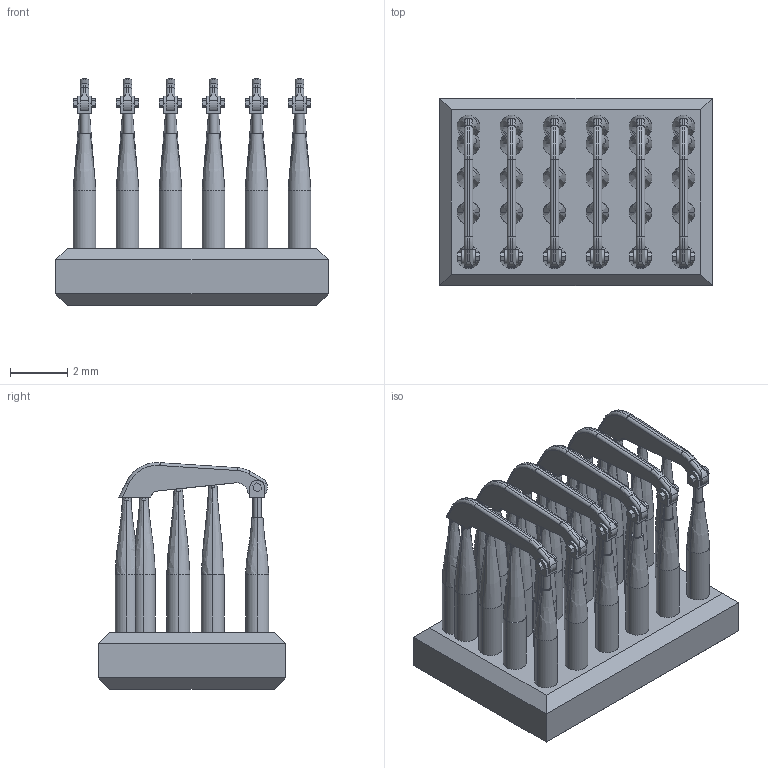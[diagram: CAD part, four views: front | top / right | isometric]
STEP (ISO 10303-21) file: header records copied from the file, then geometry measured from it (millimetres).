
FILE_DESCRIPTION(/* description */ (''),/* implementation_level */ '2;1');
FILE_NAME(/* name */ 'F6F-XA~1',/* time_stamp */ '2021-03-18T10:31:24+01:00',/* author */ (''),/* organization */ (''),/* preprocessor_version */ 'ST-DEVELOPER v16.5',/* originating_system */ '',/* authorisation */ '');
FILE_SCHEMA (('CONFIG_CONTROL_DESIGN'));
Length unit declared in the file: millimetre
Products named in the file (1): Document
Bounding box: 9.5 x 6.55 x 7.91 mm (x, y, z)
Volume: 176.9 mm3; surface area: 504.8 mm2
Topology: 1 solids, 1 shells, 536 faces, 1396 edges, 892 vertices
Faces by surface type: plane 284, bspline 138, cylinder 114
Entity records: 20232 total; most frequent: CARTESIAN_POINT 11684, ORIENTED_EDGE 2792, EDGE_CURVE 1396, VERTEX_POINT 892, EDGE_LOOP 614, B_SPLINE_CURVE_WITH_KNOTS 544, ADVANCED_FACE 536, FACE_OUTER_BOUND 536
